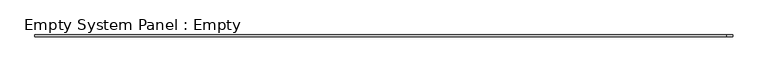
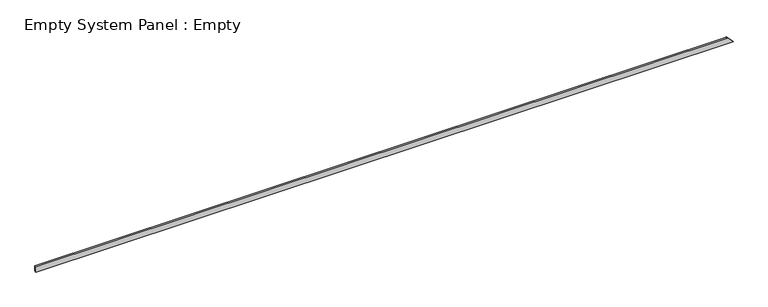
"""IFC4 building model written with IfcOpenShell, lengths in millimetres: plate geometry, Empty System Panel : Empty."""

from ifc_helpers import new_model, si_unit, frame, origin, place, context, project, spatial, polyline, outline, extrude, source, transform, mapped, element, save


def empty_system_panel_empty_1d8738a6(model_context):
    return source(origin(), model_context, "Body", "SweptSolid", [
        extrude(outline(polyline([(0.0, -19048.1356232), (0.0, 19048.1356232), (330.0, 18721.7866267), (310.0, 18721.7866267), (310.0, -19048.1356232), (0.0, -19048.1356232)])), frame((0.0, -50.0, 0.0), z_axis=(0.0, 1.0, 0.0), x_axis=(0.0, 0.0, 1.0)), (0.0, 0.0, 1.0), 100.0),
    ])


if __name__ == "__main__":
    model = new_model("IFC4")
    model_context = context("Model", 3, world=origin())
    ifc_project = project(units=[si_unit("LENGTHUNIT", "METRE", prefix="MILLI")], contexts=[model_context])
    site = spatial("IfcSite", under=ifc_project)
    building = spatial("IfcBuilding", under=site)
    placement = place(None, origin())
    empty_system_panel_empty_shape = empty_system_panel_empty_1d8738a6(model_context)
    element("IfcPlate", 1, ObjectType="Empty System Panel : Empty", at=placement, inside=building, context=model_context, shape_type="MappedRepresentation", body=[
        mapped(empty_system_panel_empty_shape, transform((0.0, 0.0, 0.0), x_axis=(1.0, 0.0, 0.0), y_axis=(0.0, 1.0, 0.0), z_axis=(0.0, 0.0, 1.0))),
    ])
    save(model, "model.ifc")
